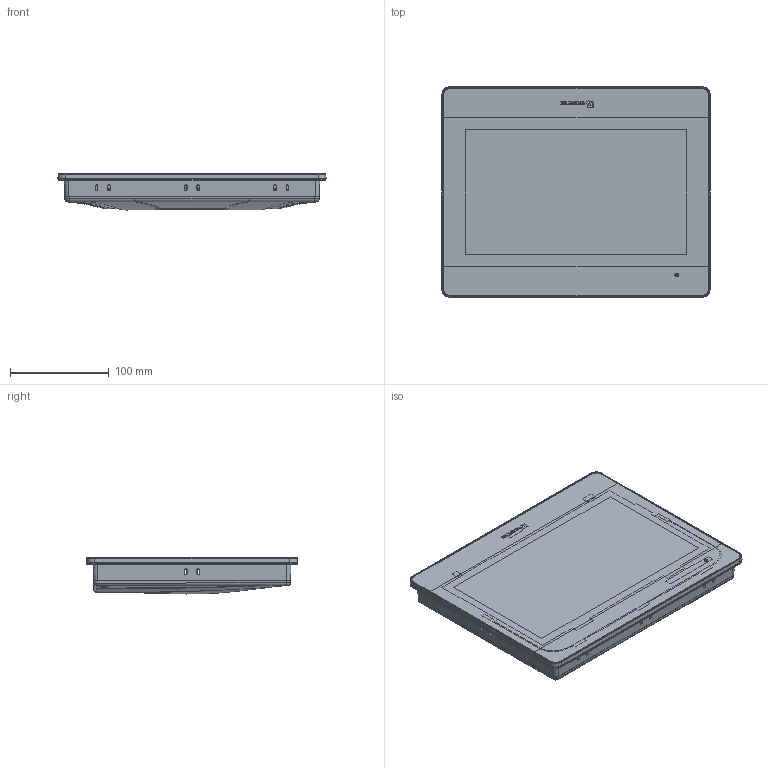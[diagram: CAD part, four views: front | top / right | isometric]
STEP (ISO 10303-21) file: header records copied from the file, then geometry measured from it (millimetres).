
FILE_DESCRIPTION (( 'STEP AP203' ), '1' );
FILE_NAME ('MT6103iP.STEP', '2017-07-28T03:47:19', ( 'annayang' ), ( '' ), 'SwSTEP 2.0', 'SolidWorks 2011', '' );
FILE_SCHEMA (( 'CONFIG_CONTROL_DESIGN' ));
Products named in the file (1): MT6103iP
Bounding box: 270.93 x 212.93 x 36.39 mm (x, y, z)
Surface area: 212898.5 mm2 (no closed solid volume)
Topology: 0 solids, 52 shells, 789 faces, 3772 edges, 2980 vertices
Faces by surface type: plane 348, cylinder 156, cone 128, bspline 120, sphere 21, torus 16
Entity records: 52542 total; most frequent: CARTESIAN_POINT 24818, ORIENTED_EDGE 5296, DIRECTION 4994, EDGE_CURVE 3731, VERTEX_POINT 2962, LINE 2210, VECTOR 2210, AXIS2_PLACEMENT_3D 1392
